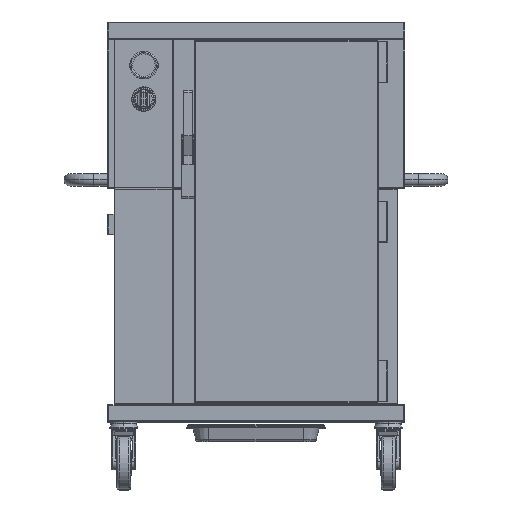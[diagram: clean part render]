
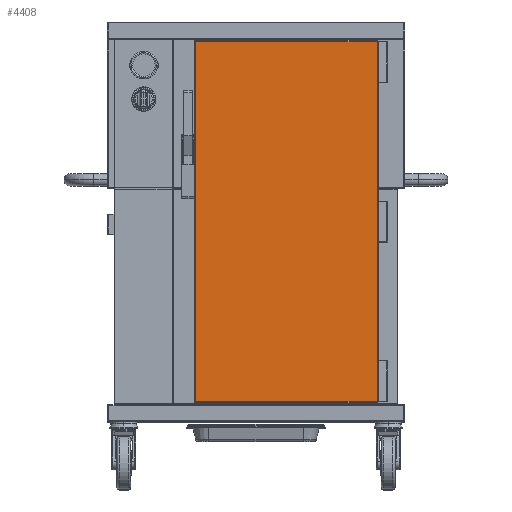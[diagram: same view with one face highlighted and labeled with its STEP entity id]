
A CAD part, top view. The second image highlights one B-rep face of the part: STEP entity #4408.
In plain terms, the highlighted planar face has unit normal (0, 0, 1).
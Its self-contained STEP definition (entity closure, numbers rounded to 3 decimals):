
#2454=DIRECTION('',(0.,-1.,0.));
#2455=VECTOR('',#2454,847.);
#2456=CARTESIAN_POINT('',(-143.,874.,324.5));
#2457=LINE('',#2456,#2455);
#2458=DIRECTION('',(-1.,0.,0.));
#2459=VECTOR('',#2458,428.);
#2460=CARTESIAN_POINT('',(285.,874.,324.5));
#2461=LINE('',#2460,#2459);
#2462=DIRECTION('',(0.,1.,0.));
#2463=VECTOR('',#2462,847.);
#2464=CARTESIAN_POINT('',(285.,27.,324.5));
#2465=LINE('',#2464,#2463);
#2466=DIRECTION('',(1.,0.,0.));
#2467=VECTOR('',#2466,428.);
#2468=CARTESIAN_POINT('',(-143.,27.,324.5));
#2469=LINE('',#2468,#2467);
#3612=CARTESIAN_POINT('',(-143.,874.,324.5));
#3613=CARTESIAN_POINT('',(-143.,27.,324.5));
#3614=VERTEX_POINT('',#3612);
#3615=VERTEX_POINT('',#3613);
#3620=CARTESIAN_POINT('',(285.,27.,324.5));
#3621=VERTEX_POINT('',#3620);
#3650=CARTESIAN_POINT('',(285.,874.,324.5));
#3651=VERTEX_POINT('',#3650);
#4396=CARTESIAN_POINT('',(0.,20.2,324.5));
#4397=DIRECTION('',(0.,0.,1.));
#4398=DIRECTION('',(1.,0.,0.));
#4399=AXIS2_PLACEMENT_3D('',#4396,#4397,#4398);
#4400=PLANE('',#4399);
#4401=ORIENTED_EDGE('',*,*,#4337,.F.);
#4402=ORIENTED_EDGE('',*,*,#4364,.F.);
#4403=ORIENTED_EDGE('',*,*,#4387,.F.);
#4405=ORIENTED_EDGE('',*,*,#4404,.F.);
#4406=EDGE_LOOP('',(#4401,#4402,#4403,#4405));
#4407=FACE_OUTER_BOUND('',#4406,.F.);
#4337=EDGE_CURVE('',#3614,#3615,#2457,.T.);
#4364=EDGE_CURVE('',#3651,#3614,#2461,.T.);
#4387=EDGE_CURVE('',#3621,#3651,#2465,.T.);
#4404=EDGE_CURVE('',#3615,#3621,#2469,.T.);
#4408=ADVANCED_FACE('',(#4407),#4400,.T.);
